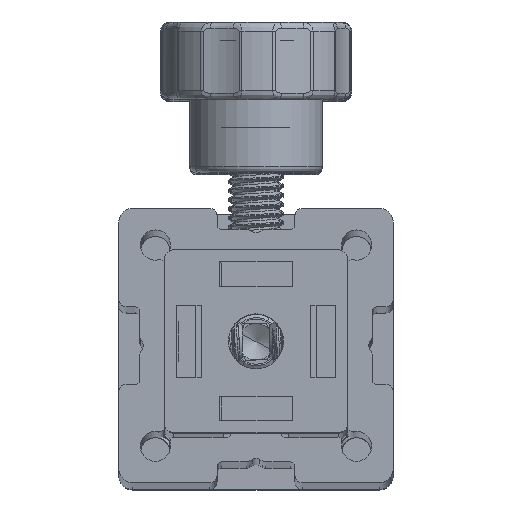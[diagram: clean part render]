
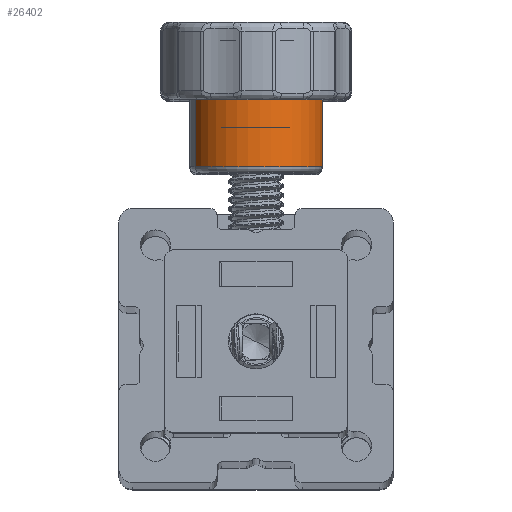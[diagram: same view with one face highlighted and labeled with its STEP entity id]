
A CAD part, top view. The second image highlights one B-rep face of the part: STEP entity #26402.
In plain terms, the highlighted cylindrical face has radius 7.25 mm (diameter 14.5 mm), a partial arc.
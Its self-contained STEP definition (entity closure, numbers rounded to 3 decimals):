
#942 = EDGE_CURVE ( 'NONE', #50730, #17252, #68993, .T. ) ;
#3825 = LINE ( 'NONE', #52501, #43661 ) ;
#5764 = CARTESIAN_POINT ( 'NONE',  ( 0., 0., 7.25 ) ) ;
#7727 = ORIENTED_EDGE ( 'NONE', *, *, #56157, .F. ) ;
#12537 = DIRECTION ( 'NONE',  ( 0., 0., -1. ) ) ;
#14237 = DIRECTION ( 'NONE',  ( 0., -1., 0. ) ) ;
#17252 = VERTEX_POINT ( 'NONE', #36457 ) ;
#18569 = EDGE_LOOP ( 'NONE', ( #58454, #58419, #64541, #7727 ) ) ;
#19193 = VERTEX_POINT ( 'NONE', #27200 ) ;
#19525 = CARTESIAN_POINT ( 'NONE',  ( 0., 2., 0. ) ) ;
#21108 = DIRECTION ( 'NONE',  ( 0., 0., -1. ) ) ;
#21998 = VECTOR ( 'NONE', #68259, 1000. ) ;
#22036 = EDGE_CURVE ( 'NONE', #19193, #17252, #29681, .T. ) ;
#26402 = ADVANCED_FACE ( 'NONE', ( #46256 ), #77175, .T. ) ;
#27200 = CARTESIAN_POINT ( 'NONE',  ( 0., 15.8, 7.25 ) ) ;
#29681 = LINE ( 'NONE', #5764, #21998 ) ;
#36457 = CARTESIAN_POINT ( 'NONE',  ( 0., 2., 7.25 ) ) ;
#39790 = CARTESIAN_POINT ( 'NONE',  ( 0., 0., 0. ) ) ;
#43564 = AXIS2_PLACEMENT_3D ( 'NONE', #49833, #62444, #12537 ) ;
#43661 = VECTOR ( 'NONE', #46806, 1000. ) ;
#46256 = FACE_OUTER_BOUND ( 'NONE', #18569, .T. ) ;
#46806 = DIRECTION ( 'NONE',  ( 0., -1., 0. ) ) ;
#49549 = AXIS2_PLACEMENT_3D ( 'NONE', #19525, #14237, #21108 ) ;
#49833 = CARTESIAN_POINT ( 'NONE',  ( 0., 15.8, 0. ) ) ;
#50730 = VERTEX_POINT ( 'NONE', #52978 ) ;
#52501 = CARTESIAN_POINT ( 'NONE',  ( 0., 0., -7.25 ) ) ;
#52757 = DIRECTION ( 'NONE',  ( 0., -1., 0. ) ) ;
#52978 = CARTESIAN_POINT ( 'NONE',  ( 0., 2., -7.25 ) ) ;
#53372 = CARTESIAN_POINT ( 'NONE',  ( 0., 15.8, -7.25 ) ) ;
#54091 = EDGE_CURVE ( 'NONE', #77804, #19193, #63048, .T. ) ;
#56157 = EDGE_CURVE ( 'NONE', #77804, #50730, #3825, .T. ) ;
#58419 = ORIENTED_EDGE ( 'NONE', *, *, #22036, .T. ) ;
#58454 = ORIENTED_EDGE ( 'NONE', *, *, #54091, .T. ) ;
#58553 = AXIS2_PLACEMENT_3D ( 'NONE', #39790, #52757, #72978 ) ;
#62444 = DIRECTION ( 'NONE',  ( 0., -1., 0. ) ) ;
#63048 = CIRCLE ( 'NONE', #43564, 7.25 ) ;
#64541 = ORIENTED_EDGE ( 'NONE', *, *, #942, .F. ) ;
#68259 = DIRECTION ( 'NONE',  ( 0., -1., 0. ) ) ;
#68993 = CIRCLE ( 'NONE', #49549, 7.25 ) ;
#72978 = DIRECTION ( 'NONE',  ( 0., 0., -1. ) ) ;
#77175 = CYLINDRICAL_SURFACE ( 'NONE', #58553, 7.25 ) ;
#77804 = VERTEX_POINT ( 'NONE', #53372 ) ;
